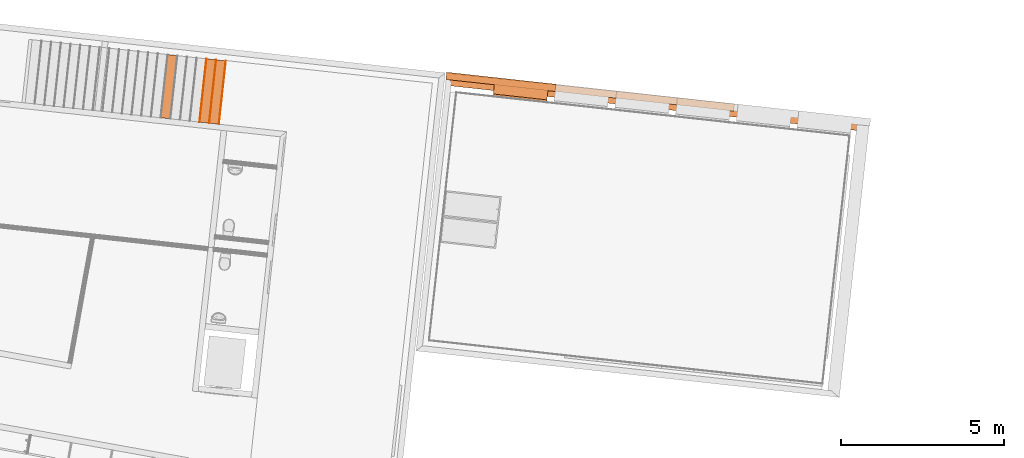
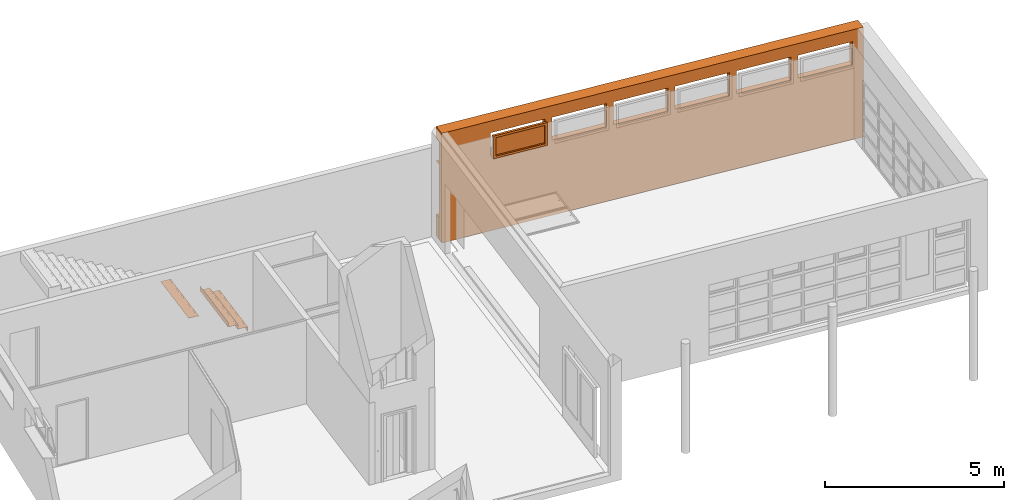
# One storey, part 78 of 79: 9 proxies, 1 element without a shape of its own.
"""IFC2X3 building model written with IfcOpenShell, lengths in metres."""

from ifc_helpers import new_model, entity, si_unit, converted_unit, derived_unit, money_unit, direction, frame, origin_with_axes, place, context, subcontext, project, spatial, polyline, outline, extrude, boolean, open_shell, faceted_brep, surface_model, material, type_object, element, aggregate, save


model = new_model("IFC2X3")

# Units and contexts
model_context = context("Model", 3, precision=1e-05, world=origin_with_axes(), true_north=direction((0.0, 1.0)))
body_context = subcontext(model_context, "Body", "Model", "MODEL_VIEW")
ifc_project = project(units=[si_unit("LENGTHUNIT", "METRE"), si_unit("AREAUNIT", "SQUARE_METRE"), si_unit("VOLUMEUNIT", "CUBIC_METRE"), converted_unit("PLANEANGLEUNIT", "DEGREE", entity("IfcPlaneAngleMeasure", 0.0174532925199), si_unit("PLANEANGLEUNIT", "RADIAN"), dimensions=[0, 0, 0, 0, 0, 0, 0]), money_unit("CHF"), converted_unit("TIMEUNIT", "Year", entity("IfcTimeMeasure", 31556926.0), si_unit("TIMEUNIT", "SECOND"), dimensions=[0, 0, 1, 0, 0, 0, 0]), si_unit("MASSUNIT", "GRAM", prefix="KILO"), si_unit("THERMODYNAMICTEMPERATUREUNIT", "DEGREE_CELSIUS"), si_unit("LUMINOUSINTENSITYUNIT", "LUMEN"), si_unit("ENERGYUNIT", "JOULE", prefix="MEGA"), derived_unit("THERMALCONDUCTANCEUNIT", [(si_unit("POWERUNIT", "WATT"), 1), (si_unit("LENGTHUNIT", "METRE"), -1), (si_unit("THERMODYNAMICTEMPERATUREUNIT", "KELVIN"), -1)]), derived_unit("SPECIFICHEATCAPACITYUNIT", [(si_unit("ENERGYUNIT", "JOULE"), 1), (si_unit("MASSUNIT", "GRAM", prefix="KILO"), -1), (si_unit("THERMODYNAMICTEMPERATUREUNIT", "KELVIN"), -1)]), derived_unit("MASSDENSITYUNIT", [(si_unit("MASSUNIT", "GRAM", prefix="KILO"), 1), (si_unit("VOLUMEUNIT", "CUBIC_METRE"), -1)])], contexts=[model_context])

# Site, building, storey
site_placement = place(None, frame((0.0, 0.0, 0.0), z_axis=(0.0, 0.0, 1.0), x_axis=(-0.177771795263, -0.984071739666, 0.0)))
site = spatial("IfcSite", under=ifc_project, at=site_placement, Name="Site", CompositionType="ELEMENT")
building_placement = place(site_placement, origin_with_axes())
building = spatial("IfcBuilding", under=site, at=building_placement, Name="Bâtiment", CompositionType="ELEMENT")
storey_placement = place(building_placement, origin_with_axes())
storey = spatial("IfcBuildingStorey", under=building, at=storey_placement, Name="RDC", CompositionType="ELEMENT", Elevation=0.0)

# Proxies
ifc_material_1 = material(Name="Matériau de construction IFC")
building_element_proxy_type_1 = type_object("IfcBuildingElementProxyType", Name="Fenêtre variable 21", PredefinedType="NOTDEFINED")
proxy_1_placement = place(storey_placement, frame((96.846886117, -141.156655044, 2.42), z_axis=(0.0, 0.0, 1.0), x_axis=(0.0692640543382, -0.997598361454, 0.0)))
element("IfcBuildingElementProxy", 1, at=proxy_1_placement, inside=storey, type_object=building_element_proxy_type_1, material=ifc_material_1, Name="Fen salle-pluri-Nord", context=body_context, shape_type="SurfaceModel", body=[
    surface_model("IfcShellBasedSurfaceModel", [(1.66, 0.284, 0.01), (1.66, 0.284, 0.02), (0.0, 0.284, 0.02), (0.0, 0.284, 0.01), (3.16, -0.225, -0.0078947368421), (3.16, 0.0, 1.551028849e-05), (1.66, 0.0, 1.551028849e-05), (0.0, 0.0, 1.551028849e-05), (-0.22, 0.0, 1.551028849e-05), (-0.22, -0.225, -0.00789473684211), (3.16, -0.225, -0.0378947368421), (-0.22, -0.225, -0.0378947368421), (3.16, -0.21, -0.0228947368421), (-0.22, -0.21, -0.0228947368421)], [open_shell([[[0, 1, 2, 3]], [[4, 5, 6, 0, 3, 7, 8, 9]], [[10, 4, 9, 11]], [[12, 10, 11, 13]]])]),
    faceted_brep([(0.075, 0.285, 0.705), (0.075, 0.36, 0.705), (0.0, 0.36, 0.705), (0.0, 0.285, 0.705), (0.075, 0.285, 0.075), (0.075, 0.36, 0.075), (0.0, 0.36, 0.075), (0.0, 0.285, 0.075)], [[[0, 1, 2, 3]], [[4, 5, 1, 0]], [[1, 5, 6, 2]], [[3, 2, 6, 7]], [[0, 3, 7, 4]], [[7, 6, 5, 4]]]),
    faceted_brep([(1.585, 0.285, 0.075), (1.585, 0.36, 0.075), (1.66, 0.36, 0.075), (1.66, 0.285, 0.075), (1.585, 0.285, 0.705), (1.585, 0.36, 0.705), (1.66, 0.36, 0.705), (1.66, 0.285, 0.705)], [[[0, 1, 2, 3]], [[4, 5, 1, 0]], [[1, 5, 6, 2]], [[3, 2, 6, 7]], [[0, 3, 7, 4]], [[7, 6, 5, 4]]]),
    faceted_brep([(0.075, 0.285, 0.075), (0.075, 0.36, 0.075), (0.0, 0.36, 0.075), (0.0, 0.285, 0.075), (1.585, 0.285, 0.075), (1.585, 0.36, 0.075), (1.66, 0.36, 0.075), (1.66, 0.36, 0.0), (0.0, 0.36, 0.0), (0.0, 0.285, 0.0), (1.66, 0.285, 0.0), (1.66, 0.285, 0.075)], [[[0, 1, 2, 3]], [[4, 5, 1, 0]], [[1, 5, 6, 7, 8, 2]], [[3, 2, 8, 9]], [[0, 3, 9, 10, 11, 4]], [[11, 6, 5, 4]], [[10, 7, 6, 11]], [[9, 8, 7, 10]]]),
    faceted_brep([(1.585, 0.285, 0.705), (1.585, 0.36, 0.705), (1.66, 0.36, 0.705), (1.66, 0.285, 0.705), (0.075, 0.285, 0.705), (0.075, 0.36, 0.705), (0.0, 0.36, 0.705), (0.0, 0.36, 0.78), (1.66, 0.36, 0.78), (1.66, 0.285, 0.78), (0.0, 0.285, 0.78), (0.0, 0.285, 0.705)], [[[0, 1, 2, 3]], [[4, 5, 1, 0]], [[1, 5, 6, 7, 8, 2]], [[3, 2, 8, 9]], [[0, 3, 9, 10, 11, 4]], [[11, 6, 5, 4]], [[10, 7, 6, 11]], [[9, 8, 7, 10]]]),
    surface_model("IfcShellBasedSurfaceModel", [(0.075, 0.285, 0.075), (1.585, 0.285, 0.075), (1.585, 0.285, 0.705), (0.075, 0.285, 0.705)], [open_shell([[[0, 1, 2, 3]]])]),
    surface_model("IfcShellBasedSurfaceModel", [(0.075, 0.305, 0.075), (0.075, 0.305, 0.705), (1.585, 0.305, 0.705), (1.585, 0.305, 0.075)], [open_shell([[[0, 1, 2, 3]]])]),
])
ifc_material_2 = material(Name="_BA banché RAL9007")
building_element_proxy_type_2 = type_object("IfcBuildingElementProxyType", Name="_M ext pluri Nord 560 x 3750", PredefinedType="NOTDEFINED")
proxy_2_placement = place(storey_placement, frame((97.0657269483, -144.308582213, -0.15), z_axis=(0.0, 0.0, 1.0), x_axis=(-0.0692640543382, 0.997598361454, 0.0)))
element("IfcBuildingElementProxy", 2, at=proxy_2_placement, inside=storey, type_object=building_element_proxy_type_2, material=ifc_material_2, Name="M ext pluri-Nord", context=body_context, shape_type="CSG", body=[
    boolean("DIFFERENCE", boolean("DIFFERENCE", boolean("DIFFERENCE", boolean("DIFFERENCE", boolean("DIFFERENCE", boolean("DIFFERENCE", extrude(outline(polyline([(-0.18, 3.75), (-0.18, 0.0), (-2.23517630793e-08, 0.0), (-2.23517630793e-08, 3.35), (0.199999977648, 3.35), (0.199999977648, 3.75), (-0.18, 3.75)])), frame((0.0, 0.0, 0.0), z_axis=(1.0, 0.0, 0.0), x_axis=(0.0, 1.0, 0.0)), (0.0, 0.0, 1.0), 12.899515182), faceted_brep([(12.559515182, -2.23517702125e-08, 2.57), (10.899515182, -2.23517702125e-08, 2.57), (10.899515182, -2.23517702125e-08, 3.35), (12.559515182, -2.23517702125e-08, 3.35), (12.559515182, -0.18, 2.57), (10.899515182, -0.18, 2.57), (10.899515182, -0.18, 3.35), (12.559515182, -0.18, 3.35)], [[[0, 1, 2, 3]], [[4, 5, 1, 0]], [[5, 6, 2, 1]], [[6, 7, 3, 2]], [[7, 4, 0, 3]], [[4, 7, 6, 5]]])), faceted_brep([(10.6795151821, -2.23517702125e-08, 2.57), (9.01951518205, -2.23517702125e-08, 2.57), (9.01951518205, -2.23517702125e-08, 3.35), (10.6795151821, -2.23517702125e-08, 3.35), (10.6795151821, -0.18, 2.57), (9.01951518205, -0.18, 2.57), (9.01951518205, -0.18, 3.35), (10.6795151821, -0.18, 3.35)], [[[0, 1, 2, 3]], [[4, 5, 1, 0]], [[5, 6, 2, 1]], [[6, 7, 3, 2]], [[7, 4, 0, 3]], [[4, 7, 6, 5]]])), faceted_brep([(8.79951518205, -2.23517560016e-08, 2.57), (7.13951518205, -2.23517560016e-08, 2.57), (7.13951518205, -2.23517560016e-08, 3.35), (8.79951518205, -2.23517844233e-08, 3.35), (8.79951518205, -0.18, 2.57), (7.13951518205, -0.18, 2.57), (7.13951518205, -0.18, 3.35), (8.79951518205, -0.18, 3.35)], [[[0, 1, 2, 3]], [[4, 5, 1, 0]], [[5, 6, 2, 1]], [[6, 7, 3, 2]], [[7, 4, 0, 3]], [[4, 7, 6, 5]]])), faceted_brep([(6.91951518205, -2.23517702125e-08, 2.57), (5.25951518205, -2.23517702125e-08, 2.57), (5.25951518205, -2.23517702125e-08, 3.35), (6.91951518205, -2.23517702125e-08, 3.35), (6.91951518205, -0.18, 2.57), (5.25951518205, -0.18, 2.57), (5.25951518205, -0.18, 3.35), (6.91951518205, -0.18, 3.35)], [[[0, 1, 2, 3]], [[4, 5, 1, 0]], [[5, 6, 2, 1]], [[6, 7, 3, 2]], [[7, 4, 0, 3]], [[4, 7, 6, 5]]])), faceted_brep([(5.03951518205, -2.23517844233e-08, 2.57), (3.37951518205, -2.23517560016e-08, 2.57), (3.37951518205, -2.23517702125e-08, 3.35), (5.03951518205, -2.23517844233e-08, 3.35), (5.03951518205, -0.18, 2.57), (3.37951518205, -0.18, 2.57), (3.37951518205, -0.18, 3.35), (5.03951518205, -0.18, 3.35)], [[[0, 1, 2, 3]], [[4, 5, 1, 0]], [[5, 6, 2, 1]], [[6, 7, 3, 2]], [[7, 4, 0, 3]], [[4, 7, 6, 5]]])), faceted_brep([(3.15951518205, -2.23517702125e-08, 2.57), (1.49951518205, -2.23517702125e-08, 2.57), (1.49951518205, -2.23517702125e-08, 3.35), (3.15951518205, -2.23517702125e-08, 3.35), (3.15951518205, -0.18, 2.57), (1.49951518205, -0.18, 2.57), (1.49951518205, -0.18, 3.35), (3.15951518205, -0.18, 3.35)], [[[0, 1, 2, 3]], [[4, 5, 1, 0]], [[5, 6, 2, 1]], [[6, 7, 3, 2]], [[7, 4, 0, 3]], [[4, 7, 6, 5]]])),
])
ifc_material_3 = material(Name="_Agglos")
building_element_proxy_type_3 = type_object("IfcBuildingElementProxyType", Name="_Agglos", PredefinedType="NOTDEFINED")
proxy_3_placement = place(storey_placement, frame((1.97136792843, 0.337355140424, 0.0), z_axis=(0.0, 0.0, 1.0), x_axis=(1.0, 0.0, 0.0)))
element("IfcBuildingElementProxy", 3, at=proxy_3_placement, inside=storey, type_object=building_element_proxy_type_3, material=ifc_material_3, Name="socle gabion pluri", context=body_context, shape_type="Brep", body=[
    faceted_brep([(94.2578554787, -135.774170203, 0.6), (94.2578554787, -135.774170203, -0.15), (94.8948393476, -144.659790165, -0.15), (94.8948393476, -144.659790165, 0.6), (94.4773271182, -135.758932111, 0.6), (94.4773271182, -135.758932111, -0.15), (95.0943590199, -144.645937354, -0.15), (95.0943590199, -144.645937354, 0.6)], [[[0, 1, 2, 3]], [[1, 0, 4, 5]], [[1, 5, 6, 2]], [[3, 2, 6, 7]], [[4, 0, 3, 7]], [[4, 7, 6, 5]]]),
])

building_element_proxy_type_4 = type_object("IfcBuildingElementProxyType", Name="Type d'escalier", PredefinedType="NOTDEFINED")
proxy_4_placement = place(storey_placement, origin_with_axes())
proxy_4 = element("IfcBuildingElementProxy", 4, at=proxy_4_placement, inside=storey, type_object=building_element_proxy_type_4, Name="ESC-001")
ifc_material_4 = material(Name="Bois - Massif 01")
building_element_proxy_type_5 = type_object("IfcBuildingElementProxyType", Name="IfcBuildingElementProxy", PredefinedType="NOTDEFINED")
proxy_5_placement = place(proxy_4_placement, frame((98.6612976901, -150.999113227, 0.15), z_axis=(0.0, 0.0, 1.0), x_axis=(0.997579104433, 0.0695408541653, 0.0)))
proxy_5 = element("IfcBuildingElementProxy", 5, at=proxy_5_placement, type_object=building_element_proxy_type_5, material=ifc_material_4, Name="C-MARCHE-001", context=body_context, shape_type="Brep", body=[
    faceted_brep([(1.00166482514, 0.0, 0.0), (-0.955838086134, 0.0, 0.0), (-0.955838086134, -0.01, 0.0), (1.00166205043, -0.01, 0.0), (1.00166482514, 0.0, -0.15), (-0.955838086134, 0.0, -0.15), (-0.955838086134, -0.01, -0.15), (1.00166205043, -0.01, -0.15)], [[[0, 1, 2, 3]], [[4, 5, 1, 0]], [[1, 5, 6, 2]], [[3, 2, 6, 7]], [[0, 3, 7, 4]], [[7, 6, 5, 4]]]),
])
proxy_6_placement = place(proxy_4_placement, frame((98.6821599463, -151.298386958, 0.31), z_axis=(0.0, 0.0, 1.0), x_axis=(0.997579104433, 0.0695408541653, 0.0)))
proxy_6 = element("IfcBuildingElementProxy", 6, at=proxy_6_placement, type_object=building_element_proxy_type_5, material=ifc_material_4, Name="C-MARCHE-002", context=body_context, shape_type="Brep", body=[
    faceted_brep([(1.00158158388, 0.0, 0.0), (-0.955838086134, 0.0, 0.0), (-0.955838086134, -0.01, 0.0), (1.00157880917, -0.01, 0.0), (1.00158158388, 0.0, -0.15), (-0.955838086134, 0.0, -0.15), (-0.955838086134, -0.01, -0.15), (1.00157880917, -0.01, -0.15)], [[[0, 1, 2, 3]], [[4, 5, 1, 0]], [[1, 5, 6, 2]], [[3, 2, 6, 7]], [[0, 3, 7, 4]], [[7, 6, 5, 4]]]),
])
proxy_7_placement = place(proxy_4_placement, frame((98.7030222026, -151.59766069, 0.47), z_axis=(0.0, 0.0, 1.0), x_axis=(0.997579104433, 0.0695408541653, 0.0)))
proxy_7 = element("IfcBuildingElementProxy", 7, at=proxy_7_placement, type_object=building_element_proxy_type_5, material=ifc_material_4, Name="C-MARCHE-003", context=body_context, shape_type="Brep", body=[
    faceted_brep([(1.00149834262, 0.0, 0.0), (-0.955838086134, 0.0, 0.0), (-0.955838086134, -0.01, 0.0), (1.00149556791, -0.01, 0.0), (1.00149834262, 0.0, -0.15), (-0.955838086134, 0.0, -0.15), (-0.955838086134, -0.01, -0.15), (1.00149556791, -0.01, -0.15)], [[[0, 1, 2, 3]], [[4, 5, 1, 0]], [[1, 5, 6, 2]], [[3, 2, 6, 7]], [[0, 3, 7, 4]], [[7, 6, 5, 4]]]),
])
proxy_8_placement = place(proxy_4_placement, frame((98.6612976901, -150.999113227, 0.16), z_axis=(0.0, 0.0, 1.0), x_axis=(0.997579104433, 0.0695408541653, 0.0)))
proxy_8 = element("IfcBuildingElementProxy", 8, at=proxy_8_placement, type_object=building_element_proxy_type_5, material=ifc_material_4, Name="MARCHE-001", context=body_context, shape_type="Brep", body=[
    faceted_brep([(1.00166140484, -0.012326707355, -0.00589109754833), (1.00166066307, -0.015, -0.00401923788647), (1.00165934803, -0.0197393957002, -0.00180922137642), (1.00165794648, -0.02479055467, -0.00045576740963), (1.00165650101, -0.03, 0.0), (1.00157880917, -0.309999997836, 0.0), (1.00157880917, -0.309999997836, -0.01), (1.00166482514, 0.0, -0.01), (-0.955838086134, -0.012326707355, -0.00589109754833), (-0.955838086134, -0.015, -0.00401923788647), (-0.955838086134, -0.0197393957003, -0.00180922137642), (-0.955838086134, -0.02479055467, -0.00045576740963), (-0.955838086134, -0.0300000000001, 0.0), (-0.955838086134, -0.310000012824, 0.0), (-0.955838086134, -0.310000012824, -0.01), (-0.955838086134, 0.0, -0.01)], [[[0, 1, 2, 3, 4, 5, 6, 7]], [[0, 8, 9, 1]], [[1, 9, 10, 2]], [[2, 10, 11, 3]], [[3, 11, 12, 4]], [[5, 4, 12, 13]], [[13, 14, 6, 5]], [[7, 6, 14, 15]], [[7, 15, 8, 0]], [[12, 11, 10, 9, 8, 15, 14, 13]]]),
    faceted_brep([(-0.955838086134, -0.05, 0.0), (1.00166482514, -0.05, 0.0), (1.00166482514, -0.05, 0.003), (-0.955838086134, -0.05, 0.003), (-0.955838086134, -0.015, 0.0), (1.00166482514, -0.015, 0.0), (1.00166482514, -0.012395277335, -0.00022788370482), (1.00166482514, -0.00986969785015, -0.00090461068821), (1.00166482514, -0.00750000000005, -0.00200961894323), (1.00166482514, -0.00535818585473, -0.00350933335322), (1.00166482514, -0.00350933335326, -0.0053581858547), (1.00166482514, -0.00200961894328, -0.0075), (1.00166482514, -0.000904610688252, -0.00986969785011), (1.00166482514, -0.000227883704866, -0.012395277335), (1.00166482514, 0.0, -0.015), (1.00166482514, -0.000227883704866, -0.017604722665), (1.00166482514, -0.000904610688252, -0.0201303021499), (1.00166482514, -0.00200961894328, -0.0225), (1.00166482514, -0.00350933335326, -0.0246418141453), (1.00166482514, -0.00535818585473, -0.0264906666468), (1.00166482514, -0.00750000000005, -0.0279903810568), (1.00166482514, -0.00986969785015, -0.0290953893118), (1.00166482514, -0.012395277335, -0.0297721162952), (1.00166482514, -0.015, -0.03), (1.00166482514, -0.015, -0.033), (1.00166482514, -0.0118743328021, -0.0327265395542), (1.00166482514, -0.00884363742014, -0.0319144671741), (1.00166482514, -0.00600000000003, -0.0305884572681), (1.00166482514, -0.00342982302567, -0.0287887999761), (1.00166482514, -0.00121120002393, -0.0265701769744), (1.00166482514, 0.000588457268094, -0.024), (1.00166482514, 0.00191446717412, -0.0211563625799), (1.00166482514, 0.0027265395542, -0.018125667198), (1.00166482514, 0.00299999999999, -0.015), (1.00166482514, 0.0027265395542, -0.011874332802), (1.00166482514, 0.00191446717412, -0.00884363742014), (1.00166482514, 0.000588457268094, -0.006), (1.00166482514, -0.00121120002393, -0.00342982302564), (1.00166482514, -0.00342982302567, -0.00121120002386), (1.00166482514, -0.00600000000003, 0.00058845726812), (1.00166482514, -0.00884363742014, 0.00191446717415), (1.00166482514, -0.0118743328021, 0.00272653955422), (1.00166482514, -0.015, 0.003), (-0.955838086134, -0.015, 0.003), (-0.955838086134, -0.011874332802, 0.00272653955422), (-0.955838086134, -0.00884363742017, 0.00191446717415), (-0.955838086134, -0.00600000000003, 0.00058845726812), (-0.955838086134, -0.00342982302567, -0.00121120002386), (-0.955838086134, -0.00121120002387, -0.00342982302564), (-0.955838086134, 0.000588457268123, -0.006), (-0.955838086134, 0.00191446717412, -0.00884363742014), (-0.955838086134, 0.00272653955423, -0.011874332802), (-0.955838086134, 0.00299999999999, -0.015), (-0.955838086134, 0.00272653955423, -0.018125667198), (-0.955838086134, 0.00191446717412, -0.0211563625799), (-0.955838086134, 0.000588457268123, -0.024), (-0.955838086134, -0.00121120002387, -0.0265701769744), (-0.955838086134, -0.00342982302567, -0.0287887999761), (-0.955838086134, -0.00600000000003, -0.0305884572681), (-0.955838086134, -0.00884363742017, -0.0319144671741), (-0.955838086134, -0.011874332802, -0.0327265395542), (-0.955838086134, -0.015, -0.033), (-0.955838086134, -0.015, -0.03), (-0.955838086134, -0.012395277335, -0.0297721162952), (-0.955838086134, -0.00986969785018, -0.0290953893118), (-0.955838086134, -0.00750000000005, -0.0279903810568), (-0.955838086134, -0.00535818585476, -0.0264906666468), (-0.955838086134, -0.00350933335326, -0.0246418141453), (-0.955838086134, -0.00200961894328, -0.0225), (-0.955838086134, -0.000904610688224, -0.0201303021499), (-0.955838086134, -0.000227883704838, -0.017604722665), (-0.955838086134, 0.0, -0.015), (-0.955838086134, -0.000227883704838, -0.012395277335), (-0.955838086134, -0.000904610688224, -0.00986969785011), (-0.955838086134, -0.00200961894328, -0.0075), (-0.955838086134, -0.00350933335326, -0.0053581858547), (-0.955838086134, -0.00535818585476, -0.00350933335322), (-0.955838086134, -0.00750000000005, -0.00200961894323), (-0.955838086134, -0.00986969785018, -0.00090461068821), (-0.955838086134, -0.012395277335, -0.00022788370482)], [[[0, 1, 2, 3]], [[4, 5, 1, 0]], [[1, 5, 6, 7, 8, 9, 10, 11, 12, 13, 14, 15, 16, 17, 18, 19, 20, 21, 22, 23, 24, 25, 26, 27, 28, 29, 30, 31, 32, 33, 34, 35, 36, 37, 38, 39, 40, 41, 42, 2]], [[3, 2, 42, 43]], [[0, 3, 43, 44, 45, 46, 47, 48, 49, 50, 51, 52, 53, 54, 55, 56, 57, 58, 59, 60, 61, 62, 63, 64, 65, 66, 67, 68, 69, 70, 71, 72, 73, 74, 75, 76, 77, 78, 79, 4]], [[79, 6, 5, 4]], [[78, 7, 6, 79]], [[77, 8, 7, 78]], [[76, 9, 8, 77]], [[75, 10, 9, 76]], [[74, 11, 10, 75]], [[73, 12, 11, 74]], [[72, 13, 12, 73]], [[71, 14, 13, 72]], [[70, 15, 14, 71]], [[69, 16, 15, 70]], [[68, 17, 16, 69]], [[67, 18, 17, 68]], [[66, 19, 18, 67]], [[65, 20, 19, 66]], [[64, 21, 20, 65]], [[63, 22, 21, 64]], [[62, 23, 22, 63]], [[61, 24, 23, 62]], [[60, 25, 24, 61]], [[59, 26, 25, 60]], [[58, 27, 26, 59]], [[57, 28, 27, 58]], [[56, 29, 28, 57]], [[55, 30, 29, 56]], [[54, 31, 30, 55]], [[53, 32, 31, 54]], [[52, 33, 32, 53]], [[51, 34, 33, 52]], [[50, 35, 34, 51]], [[49, 36, 35, 50]], [[48, 37, 36, 49]], [[47, 38, 37, 48]], [[46, 39, 38, 47]], [[45, 40, 39, 46]], [[44, 41, 40, 45]], [[43, 42, 41, 44]]]),
])
proxy_9_placement = place(proxy_4_placement, frame((98.6821599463, -151.298386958, 0.32), z_axis=(0.0, 0.0, 1.0), x_axis=(0.997579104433, 0.0695408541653, 0.0)))
proxy_9 = element("IfcBuildingElementProxy", 9, at=proxy_9_placement, type_object=building_element_proxy_type_5, material=ifc_material_4, Name="MARCHE-002", context=body_context, shape_type="Brep", body=[
    faceted_brep([(1.00157816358, -0.012326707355, -0.00589109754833), (1.00157742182, -0.015, -0.00401923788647), (1.00157610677, -0.0197393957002, -0.00180922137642), (1.00157470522, -0.02479055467, -0.00045576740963), (1.00157325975, -0.03, 0.0), (1.00149556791, -0.310000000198, 0.0), (1.00149556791, -0.310000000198, -0.01), (1.00158158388, 0.0, -0.01), (-0.955838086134, -0.012326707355, -0.00589109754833), (-0.955838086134, -0.015, -0.00401923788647), (-0.955838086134, -0.0197393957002, -0.00180922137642), (-0.955838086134, -0.02479055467, -0.00045576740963), (-0.955838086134, -0.03, 0.0), (-0.955838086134, -0.309999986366, 0.0), (-0.955838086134, -0.309999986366, -0.01), (-0.955838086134, 0.0, -0.01)], [[[0, 1, 2, 3, 4, 5, 6, 7]], [[0, 8, 9, 1]], [[1, 9, 10, 2]], [[2, 10, 11, 3]], [[3, 11, 12, 4]], [[5, 4, 12, 13]], [[13, 14, 6, 5]], [[7, 6, 14, 15]], [[7, 15, 8, 0]], [[12, 11, 10, 9, 8, 15, 14, 13]]]),
    faceted_brep([(-0.955838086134, -0.05, 0.0), (1.00158158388, -0.05, 0.0), (1.00158158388, -0.05, 0.003), (-0.955838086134, -0.05, 0.003), (-0.955838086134, -0.015, 0.0), (1.00158158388, -0.015, 0.0), (1.00158158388, -0.012395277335, -0.00022788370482), (1.00158158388, -0.00986969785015, -0.00090461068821), (1.00158158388, -0.00749999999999, -0.00200961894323), (1.00158158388, -0.0053581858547, -0.00350933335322), (1.00158158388, -0.00350933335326, -0.0053581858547), (1.00158158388, -0.00200961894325, -0.0075), (1.00158158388, -0.000904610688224, -0.00986969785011), (1.00158158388, -0.00022788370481, -0.012395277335), (1.00158158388, 0.0, -0.015), (1.00158158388, -0.00022788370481, -0.017604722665), (1.00158158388, -0.000904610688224, -0.0201303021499), (1.00158158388, -0.00200961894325, -0.0225), (1.00158158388, -0.00350933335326, -0.0246418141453), (1.00158158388, -0.0053581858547, -0.0264906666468), (1.00158158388, -0.00749999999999, -0.0279903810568), (1.00158158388, -0.00986969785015, -0.0290953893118), (1.00158158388, -0.012395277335, -0.0297721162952), (1.00158158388, -0.015, -0.03), (1.00158158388, -0.015, -0.033), (1.00158158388, -0.011874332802, -0.0327265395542), (1.00158158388, -0.00884363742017, -0.0319144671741), (1.00158158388, -0.006, -0.0305884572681), (1.00158158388, -0.00342982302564, -0.0287887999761), (1.00158158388, -0.00121120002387, -0.0265701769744), (1.00158158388, 0.000588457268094, -0.024), (1.00158158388, 0.00191446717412, -0.0211563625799), (1.00158158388, 0.00272653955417, -0.018125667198), (1.00158158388, 0.00299999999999, -0.015), (1.00158158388, 0.00272653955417, -0.011874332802), (1.00158158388, 0.00191446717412, -0.00884363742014), (1.00158158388, 0.000588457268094, -0.006), (1.00158158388, -0.00121120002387, -0.00342982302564), (1.00158158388, -0.00342982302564, -0.00121120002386), (1.00158158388, -0.006, 0.00058845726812), (1.00158158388, -0.00884363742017, 0.00191446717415), (1.00158158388, -0.011874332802, 0.00272653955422), (1.00158158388, -0.015, 0.003), (-0.955838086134, -0.015, 0.003), (-0.955838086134, -0.011874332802, 0.00272653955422), (-0.955838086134, -0.00884363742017, 0.00191446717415), (-0.955838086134, -0.00600000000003, 0.00058845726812), (-0.955838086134, -0.00342982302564, -0.00121120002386), (-0.955838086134, -0.00121120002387, -0.00342982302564), (-0.955838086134, 0.000588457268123, -0.006), (-0.955838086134, 0.00191446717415, -0.00884363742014), (-0.955838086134, 0.00272653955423, -0.011874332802), (-0.955838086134, 0.00299999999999, -0.015), (-0.955838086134, 0.00272653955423, -0.018125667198), (-0.955838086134, 0.00191446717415, -0.0211563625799), (-0.955838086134, 0.000588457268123, -0.024), (-0.955838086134, -0.00121120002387, -0.0265701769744), (-0.955838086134, -0.00342982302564, -0.0287887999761), (-0.955838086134, -0.00600000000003, -0.0305884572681), (-0.955838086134, -0.00884363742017, -0.0319144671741), (-0.955838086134, -0.011874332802, -0.0327265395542), (-0.955838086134, -0.015, -0.033), (-0.955838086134, -0.015, -0.03), (-0.955838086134, -0.012395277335, -0.0297721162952), (-0.955838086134, -0.00986969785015, -0.0290953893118), (-0.955838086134, -0.00750000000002, -0.0279903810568), (-0.955838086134, -0.00535818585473, -0.0264906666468), (-0.955838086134, -0.00350933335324, -0.0246418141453), (-0.955838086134, -0.00200961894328, -0.0225), (-0.955838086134, -0.000904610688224, -0.0201303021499), (-0.955838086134, -0.000227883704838, -0.017604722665), (-0.955838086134, 0.0, -0.015), (-0.955838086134, -0.000227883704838, -0.012395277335), (-0.955838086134, -0.000904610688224, -0.00986969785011), (-0.955838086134, -0.00200961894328, -0.0075), (-0.955838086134, -0.00350933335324, -0.0053581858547), (-0.955838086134, -0.00535818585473, -0.00350933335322), (-0.955838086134, -0.00750000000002, -0.00200961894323), (-0.955838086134, -0.00986969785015, -0.00090461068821), (-0.955838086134, -0.012395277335, -0.00022788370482)], [[[0, 1, 2, 3]], [[4, 5, 1, 0]], [[1, 5, 6, 7, 8, 9, 10, 11, 12, 13, 14, 15, 16, 17, 18, 19, 20, 21, 22, 23, 24, 25, 26, 27, 28, 29, 30, 31, 32, 33, 34, 35, 36, 37, 38, 39, 40, 41, 42, 2]], [[3, 2, 42, 43]], [[0, 3, 43, 44, 45, 46, 47, 48, 49, 50, 51, 52, 53, 54, 55, 56, 57, 58, 59, 60, 61, 62, 63, 64, 65, 66, 67, 68, 69, 70, 71, 72, 73, 74, 75, 76, 77, 78, 79, 4]], [[79, 6, 5, 4]], [[78, 7, 6, 79]], [[77, 8, 7, 78]], [[76, 9, 8, 77]], [[75, 10, 9, 76]], [[74, 11, 10, 75]], [[73, 12, 11, 74]], [[72, 13, 12, 73]], [[71, 14, 13, 72]], [[70, 15, 14, 71]], [[69, 16, 15, 70]], [[68, 17, 16, 69]], [[67, 18, 17, 68]], [[66, 19, 18, 67]], [[65, 20, 19, 66]], [[64, 21, 20, 65]], [[63, 22, 21, 64]], [[62, 23, 22, 63]], [[61, 24, 23, 62]], [[60, 25, 24, 61]], [[59, 26, 25, 60]], [[58, 27, 26, 59]], [[57, 28, 27, 58]], [[56, 29, 28, 57]], [[55, 30, 29, 56]], [[54, 31, 30, 55]], [[53, 32, 31, 54]], [[52, 33, 32, 53]], [[51, 34, 33, 52]], [[50, 35, 34, 51]], [[49, 36, 35, 50]], [[48, 37, 36, 49]], [[47, 38, 37, 48]], [[46, 39, 38, 47]], [[45, 40, 39, 46]], [[44, 41, 40, 45]], [[43, 42, 41, 44]]]),
])
proxy_10_placement = place(proxy_4_placement, frame((98.7656089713, -152.495481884, 0.96), z_axis=(0.0, 0.0, 1.0), x_axis=(0.997579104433, 0.0695408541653, 0.0)))
proxy_10 = element("IfcBuildingElementProxy", 10, at=proxy_10_placement, type_object=building_element_proxy_type_5, material=ifc_material_4, Name="MARCHE-006", context=body_context, shape_type="Brep", body=[
    faceted_brep([(1.00124519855, -0.012326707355, -0.00589109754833), (1.00124445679, -0.015, -0.00401923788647), (1.00124314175, -0.0197393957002, -0.00180922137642), (1.0012417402, -0.02479055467, -0.00045576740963), (1.00124029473, -0.03, 0.0), (1.00116260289, -0.309999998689, 0.0), (1.00116260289, -0.309999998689, -0.01), (1.00124861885, 0.0, -0.01), (-0.955838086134, -0.012326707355, -0.00589109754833), (-0.955838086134, -0.015, -0.00401923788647), (-0.955838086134, -0.0197393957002, -0.00180922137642), (-0.955838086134, -0.02479055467, -0.00045576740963), (-0.955838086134, -0.03, 0.0), (-0.955838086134, -0.309999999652, 0.0), (-0.955838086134, -0.309999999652, -0.01), (-0.955838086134, 0.0, -0.01)], [[[0, 1, 2, 3, 4, 5, 6, 7]], [[0, 8, 9, 1]], [[1, 9, 10, 2]], [[2, 10, 11, 3]], [[3, 11, 12, 4]], [[5, 4, 12, 13]], [[13, 14, 6, 5]], [[7, 6, 14, 15]], [[7, 15, 8, 0]], [[12, 11, 10, 9, 8, 15, 14, 13]]]),
    faceted_brep([(-0.955838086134, -0.05, 0.0), (1.00124861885, -0.05, 0.0), (1.00124861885, -0.05, 0.003), (-0.955838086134, -0.05, 0.003), (-0.955838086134, -0.015, 0.0), (1.00124861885, -0.015, 0.0), (1.00124861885, -0.012395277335, -0.00022788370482), (1.00124861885, -0.00986969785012, -0.00090461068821), (1.00124861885, -0.00749999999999, -0.00200961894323), (1.00124861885, -0.0053581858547, -0.00350933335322), (1.00124861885, -0.00350933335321, -0.0053581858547), (1.00124861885, -0.00200961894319, -0.0075), (1.00124861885, -0.000904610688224, -0.00986969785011), (1.00124861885, -0.00022788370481, -0.012395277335), (1.00124861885, 0.0, -0.015), (1.00124861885, -0.00022788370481, -0.017604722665), (1.00124861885, -0.000904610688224, -0.0201303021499), (1.00124861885, -0.00200961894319, -0.0225), (1.00124861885, -0.00350933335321, -0.0246418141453), (1.00124861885, -0.0053581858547, -0.0264906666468), (1.00124861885, -0.00749999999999, -0.0279903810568), (1.00124861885, -0.00986969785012, -0.0290953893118), (1.00124861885, -0.012395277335, -0.0297721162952), (1.00124861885, -0.015, -0.03), (1.00124861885, -0.015, -0.033), (1.00124861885, -0.011874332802, -0.0327265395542), (1.00124861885, -0.00884363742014, -0.0319144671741), (1.00124861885, -0.006, -0.0305884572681), (1.00124861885, -0.00342982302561, -0.0287887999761), (1.00124861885, -0.00121120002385, -0.0265701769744), (1.00124861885, 0.000588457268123, -0.024), (1.00124861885, 0.00191446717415, -0.0211563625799), (1.00124861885, 0.00272653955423, -0.018125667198), (1.00124861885, 0.00300000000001, -0.015), (1.00124861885, 0.00272653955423, -0.011874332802), (1.00124861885, 0.00191446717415, -0.00884363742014), (1.00124861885, 0.000588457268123, -0.006), (1.00124861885, -0.00121120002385, -0.00342982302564), (1.00124861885, -0.00342982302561, -0.00121120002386), (1.00124861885, -0.006, 0.00058845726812), (1.00124861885, -0.00884363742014, 0.00191446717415), (1.00124861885, -0.011874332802, 0.00272653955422), (1.00124861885, -0.015, 0.003), (-0.955838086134, -0.015, 0.003), (-0.955838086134, -0.011874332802, 0.00272653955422), (-0.955838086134, -0.00884363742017, 0.00191446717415), (-0.955838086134, -0.00599999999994, 0.00058845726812), (-0.955838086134, -0.00342982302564, -0.00121120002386), (-0.955838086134, -0.00121120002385, -0.00342982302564), (-0.955838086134, 0.000588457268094, -0.006), (-0.955838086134, 0.00191446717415, -0.00884363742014), (-0.955838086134, 0.00272653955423, -0.011874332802), (-0.955838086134, 0.00299999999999, -0.015), (-0.955838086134, 0.00272653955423, -0.018125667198), (-0.955838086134, 0.00191446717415, -0.0211563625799), (-0.955838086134, 0.000588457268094, -0.024), (-0.955838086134, -0.00121120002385, -0.0265701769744), (-0.955838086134, -0.00342982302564, -0.0287887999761), (-0.955838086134, -0.00599999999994, -0.0305884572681), (-0.955838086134, -0.00884363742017, -0.0319144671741), (-0.955838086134, -0.011874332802, -0.0327265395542), (-0.955838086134, -0.015, -0.033), (-0.955838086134, -0.015, -0.03), (-0.955838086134, -0.0123952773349, -0.0297721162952), (-0.955838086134, -0.00986969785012, -0.0290953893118), (-0.955838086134, -0.00749999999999, -0.0279903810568), (-0.955838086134, -0.00535818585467, -0.0264906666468), (-0.955838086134, -0.00350933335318, -0.0246418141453), (-0.955838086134, -0.00200961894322, -0.0225), (-0.955838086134, -0.000904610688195, -0.0201303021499), (-0.955838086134, -0.00022788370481, -0.017604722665), (-0.955838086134, 0.0, -0.015), (-0.955838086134, -0.00022788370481, -0.012395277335), (-0.955838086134, -0.000904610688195, -0.00986969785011), (-0.955838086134, -0.00200961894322, -0.0075), (-0.955838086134, -0.00350933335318, -0.0053581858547), (-0.955838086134, -0.00535818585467, -0.00350933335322), (-0.955838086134, -0.00749999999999, -0.00200961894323), (-0.955838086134, -0.00986969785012, -0.00090461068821), (-0.955838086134, -0.0123952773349, -0.00022788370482)], [[[0, 1, 2, 3]], [[4, 5, 1, 0]], [[1, 5, 6, 7, 8, 9, 10, 11, 12, 13, 14, 15, 16, 17, 18, 19, 20, 21, 22, 23, 24, 25, 26, 27, 28, 29, 30, 31, 32, 33, 34, 35, 36, 37, 38, 39, 40, 41, 42, 2]], [[3, 2, 42, 43]], [[0, 3, 43, 44, 45, 46, 47, 48, 49, 50, 51, 52, 53, 54, 55, 56, 57, 58, 59, 60, 61, 62, 63, 64, 65, 66, 67, 68, 69, 70, 71, 72, 73, 74, 75, 76, 77, 78, 79, 4]], [[79, 6, 5, 4]], [[78, 7, 6, 79]], [[77, 8, 7, 78]], [[76, 9, 8, 77]], [[75, 10, 9, 76]], [[74, 11, 10, 75]], [[73, 12, 11, 74]], [[72, 13, 12, 73]], [[71, 14, 13, 72]], [[70, 15, 14, 71]], [[69, 16, 15, 70]], [[68, 17, 16, 69]], [[67, 18, 17, 68]], [[66, 19, 18, 67]], [[65, 20, 19, 66]], [[64, 21, 20, 65]], [[63, 22, 21, 64]], [[62, 23, 22, 63]], [[61, 24, 23, 62]], [[60, 25, 24, 61]], [[59, 26, 25, 60]], [[58, 27, 26, 59]], [[57, 28, 27, 58]], [[56, 29, 28, 57]], [[55, 30, 29, 56]], [[54, 31, 30, 55]], [[53, 32, 31, 54]], [[52, 33, 32, 53]], [[51, 34, 33, 52]], [[50, 35, 34, 51]], [[49, 36, 35, 50]], [[48, 37, 36, 49]], [[47, 38, 37, 48]], [[46, 39, 38, 47]], [[45, 40, 39, 46]], [[44, 41, 40, 45]], [[43, 42, 41, 44]]]),
])
aggregate(proxy_4, [proxy_5, proxy_6, proxy_7, proxy_8, proxy_9, proxy_10])

save(model, "model.ifc")
